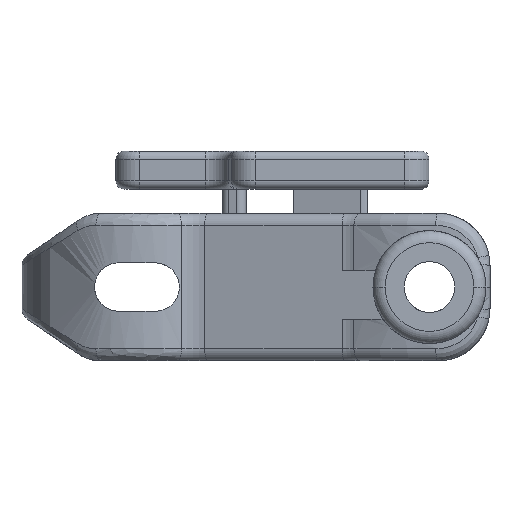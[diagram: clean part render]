
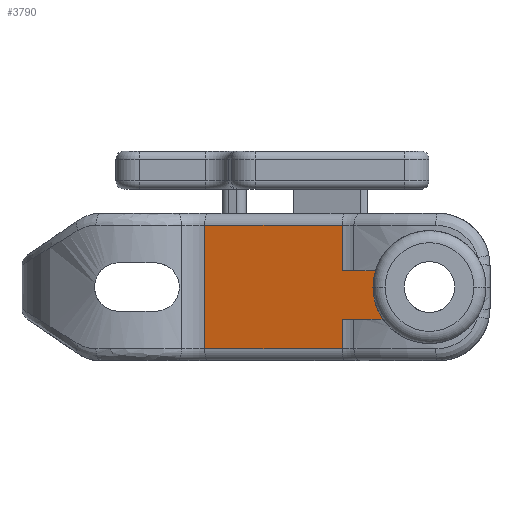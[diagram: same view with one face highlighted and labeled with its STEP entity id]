
A CAD part, left-side view. The second image highlights one B-rep face of the part: STEP entity #3790.
In plain terms, the highlighted planar face has unit normal (-0.973, 0.233, 0).
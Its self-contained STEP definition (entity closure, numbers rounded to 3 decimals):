
#1542=CARTESIAN_POINT('Vertex',(-19.464,-10.695,7.65)) ;
#1573=CARTESIAN_POINT('Vertex',(-15.381,6.345,7.65)) ;
#1576=CARTESIAN_POINT('Line Origine',(-17.213,-1.3,7.65)) ;
#2808=CARTESIAN_POINT('Vertex',(-15.381,6.345,-7.65)) ;
#2839=CARTESIAN_POINT('Vertex',(-19.464,-10.695,-7.65)) ;
#2842=CARTESIAN_POINT('Line Origine',(-17.213,-1.3,-7.65)) ;
#3684=CARTESIAN_POINT('Line Origine',(-19.464,-10.695,0.)) ;
#3688=CARTESIAN_POINT('Vertex',(-19.464,-10.695,2.)) ;
#3727=CARTESIAN_POINT('Axis2P3D Location',(-15.381,6.345,0.)) ;
#3732=CARTESIAN_POINT('Line Origine',(-19.464,-10.695,-5.825)) ;
#3736=CARTESIAN_POINT('Vertex',(-19.464,-10.695,-4.)) ;
#3739=CARTESIAN_POINT('Line Origine',(-20.07,-13.225,-4.)) ;
#3743=CARTESIAN_POINT('Vertex',(-20.677,-15.755,-4.)) ;
#3747=CARTESIAN_POINT('Control Point',(-20.677,-15.755,-4.)) ;
#3748=CARTESIAN_POINT('Control Point',(-20.611,-15.482,-3.607)) ;
#3749=CARTESIAN_POINT('Control Point',(-20.553,-15.241,-3.19)) ;
#3750=CARTESIAN_POINT('Control Point',(-20.504,-15.037,-2.753)) ;
#3751=CARTESIAN_POINT('Control Point',(-20.434,-14.743,-1.95)) ;
#3752=CARTESIAN_POINT('Control Point',(-20.393,-14.574,-1.112)) ;
#3753=CARTESIAN_POINT('Control Point',(-20.382,-14.525,-0.743)) ;
#3754=CARTESIAN_POINT('Control Point',(-20.376,-14.5,-0.371)) ;
#3755=CARTESIAN_POINT('Control Point',(-20.376,-14.5,0.)) ;
#3756=CARTESIAN_POINT('Vertex',(-20.376,-14.5,0.)) ;
#3760=CARTESIAN_POINT('Control Point',(-20.376,-14.5,0.)) ;
#3761=CARTESIAN_POINT('Control Point',(-20.376,-14.5,0.406)) ;
#3762=CARTESIAN_POINT('Control Point',(-20.383,-14.529,0.812)) ;
#3763=CARTESIAN_POINT('Control Point',(-20.397,-14.588,1.215)) ;
#3764=CARTESIAN_POINT('Control Point',(-20.418,-14.676,1.612)) ;
#3765=CARTESIAN_POINT('Control Point',(-20.446,-14.792,2.)) ;
#3766=CARTESIAN_POINT('Vertex',(-20.446,-14.792,2.)) ;
#3769=CARTESIAN_POINT('Line Origine',(-19.955,-12.744,2.)) ;
#3774=CARTESIAN_POINT('Line Origine',(-15.381,6.345,0.)) ;
#1577=DIRECTION('Vector Direction',(0.233,0.972,0.)) ;
#2843=DIRECTION('Vector Direction',(0.233,0.972,0.)) ;
#3685=DIRECTION('Vector Direction',(0.,0.,-1.)) ;
#3728=DIRECTION('Axis2P3D Direction',(0.972,-0.233,0.)) ;
#3729=DIRECTION('Axis2P3D XDirection',(-0.233,-0.972,-0.)) ;
#3733=DIRECTION('Vector Direction',(0.,0.,-1.)) ;
#3740=DIRECTION('Vector Direction',(-0.233,-0.972,0.)) ;
#3770=DIRECTION('Vector Direction',(-0.233,-0.972,0.)) ;
#3775=DIRECTION('Vector Direction',(0.,0.,-1.)) ;
#3730=AXIS2_PLACEMENT_3D('Plane Axis2P3D',#3727,#3728,#3729) ;
#3780=ORIENTED_EDGE('',*,*,#2846,.T.) ;
#3781=ORIENTED_EDGE('',*,*,#3738,.F.) ;
#3782=ORIENTED_EDGE('',*,*,#3745,.T.) ;
#3783=ORIENTED_EDGE('',*,*,#3758,.T.) ;
#3784=ORIENTED_EDGE('',*,*,#3768,.T.) ;
#3785=ORIENTED_EDGE('',*,*,#3773,.T.) ;
#3786=ORIENTED_EDGE('',*,*,#3690,.F.) ;
#3787=ORIENTED_EDGE('',*,*,#1580,.T.) ;
#3788=ORIENTED_EDGE('',*,*,#3778,.T.) ;
#1578=VECTOR('Line Direction',#1577,1.) ;
#2844=VECTOR('Line Direction',#2843,1.) ;
#3686=VECTOR('Line Direction',#3685,1.) ;
#3734=VECTOR('Line Direction',#3733,1.) ;
#3741=VECTOR('Line Direction',#3740,1.) ;
#3771=VECTOR('Line Direction',#3770,1.) ;
#3776=VECTOR('Line Direction',#3775,1.) ;
#3790=ADVANCED_FACE('PartBody',(#3789),#3731,.F.) ;
#3746=B_SPLINE_CURVE_WITH_KNOTS('',5,(#3747,#3748,#3749,#3750,#3751,#3752,#3753,#3754,#3755),.UNSPECIFIED.,.F.,.U.,(6,3,6),(25.5,28.916,31.541),.UNSPECIFIED.) ;
#3759=B_SPLINE_CURVE_WITH_KNOTS('',5,(#3760,#3761,#3762,#3763,#3764,#3765),.UNSPECIFIED.,.F.,.U.,(6,6),(0.,2.871),.UNSPECIFIED.) ;
#1580=EDGE_CURVE('',#1543,#1574,#1579,.T.) ;
#2846=EDGE_CURVE('',#2809,#2840,#2845,.F.) ;
#3690=EDGE_CURVE('',#1543,#3689,#3687,.T.) ;
#3738=EDGE_CURVE('',#3737,#2840,#3735,.T.) ;
#3745=EDGE_CURVE('',#3737,#3744,#3742,.T.) ;
#3758=EDGE_CURVE('',#3744,#3757,#3746,.T.) ;
#3768=EDGE_CURVE('',#3757,#3767,#3759,.T.) ;
#3773=EDGE_CURVE('',#3767,#3689,#3772,.F.) ;
#3778=EDGE_CURVE('',#1574,#2809,#3777,.T.) ;
#3779=EDGE_LOOP('',(#3780,#3781,#3782,#3783,#3784,#3785,#3786,#3787,#3788)) ;
#3789=FACE_OUTER_BOUND('',#3779,.T.) ;
#1579=LINE('Line',#1576,#1578) ;
#2845=LINE('Line',#2842,#2844) ;
#3687=LINE('Line',#3684,#3686) ;
#3735=LINE('Line',#3732,#3734) ;
#3742=LINE('Line',#3739,#3741) ;
#3772=LINE('Line',#3769,#3771) ;
#3777=LINE('Line',#3774,#3776) ;
#3731=PLANE('',#3730) ;
#1543=VERTEX_POINT('',#1542) ;
#1574=VERTEX_POINT('',#1573) ;
#2809=VERTEX_POINT('',#2808) ;
#2840=VERTEX_POINT('',#2839) ;
#3689=VERTEX_POINT('',#3688) ;
#3737=VERTEX_POINT('',#3736) ;
#3744=VERTEX_POINT('',#3743) ;
#3757=VERTEX_POINT('',#3756) ;
#3767=VERTEX_POINT('',#3766) ;
